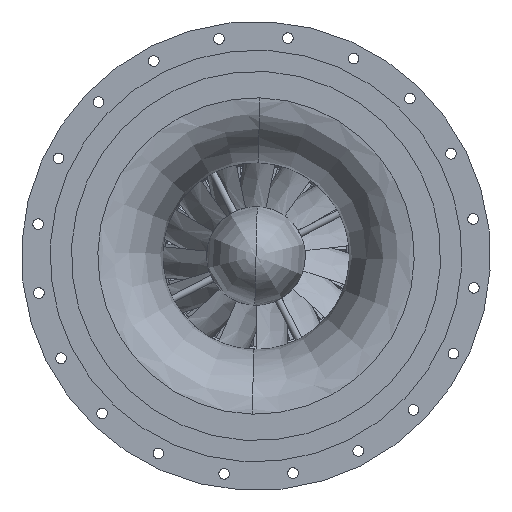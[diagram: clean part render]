
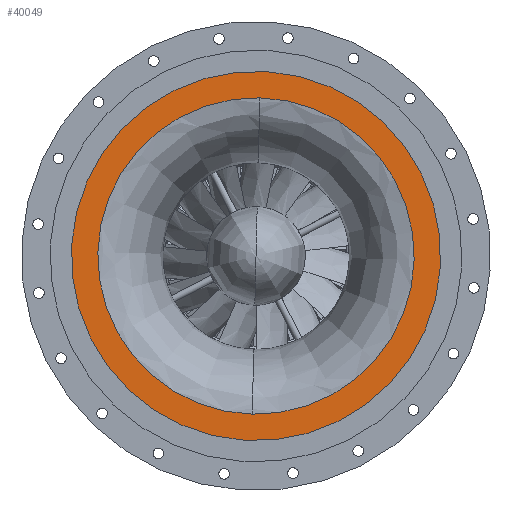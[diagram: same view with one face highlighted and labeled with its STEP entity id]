
A CAD part, front view. The second image highlights one B-rep face of the part: STEP entity #40049.
In plain terms, the highlighted planar face has unit normal (0, -1, 0).
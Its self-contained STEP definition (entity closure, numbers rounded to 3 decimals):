
#39971=CARTESIAN_POINT('Axis2P3D Location',(0.,-27.178,164.441)) ;
#39980=CARTESIAN_POINT('Axis2P3D Location',(0.,-27.178,0.)) ;
#39984=CARTESIAN_POINT('Vertex',(-78.837,-27.178,-144.311)) ;
#39986=CARTESIAN_POINT('Vertex',(78.837,-27.178,144.311)) ;
#39989=CARTESIAN_POINT('Axis2P3D Location',(0.,-27.178,0.)) ;
#40031=CARTESIAN_POINT('Axis2P3D Location',(0.,-27.178,0.)) ;
#40035=CARTESIAN_POINT('Vertex',(-63.931,-27.178,-117.026)) ;
#40037=CARTESIAN_POINT('Vertex',(63.931,-27.178,117.026)) ;
#40040=CARTESIAN_POINT('Axis2P3D Location',(0.,-27.178,0.)) ;
#39972=DIRECTION('Axis2P3D Direction',(0.,1.,0.)) ;
#39973=DIRECTION('Axis2P3D XDirection',(1.,-0.,0.)) ;
#39981=DIRECTION('Axis2P3D Direction',(0.,1.,0.)) ;
#39990=DIRECTION('Axis2P3D Direction',(0.,1.,0.)) ;
#40032=DIRECTION('Axis2P3D Direction',(0.,1.,0.)) ;
#40041=DIRECTION('Axis2P3D Direction',(0.,1.,0.)) ;
#39974=AXIS2_PLACEMENT_3D('Plane Axis2P3D',#39971,#39972,#39973) ;
#39982=AXIS2_PLACEMENT_3D('Circle Axis2P3D',#39980,#39981,$) ;
#39991=AXIS2_PLACEMENT_3D('Circle Axis2P3D',#39989,#39990,$) ;
#40033=AXIS2_PLACEMENT_3D('Circle Axis2P3D',#40031,#40032,$) ;
#40042=AXIS2_PLACEMENT_3D('Circle Axis2P3D',#40040,#40041,$) ;
#40028=ORIENTED_EDGE('',*,*,#39993,.F.) ;
#40029=ORIENTED_EDGE('',*,*,#39988,.F.) ;
#40046=ORIENTED_EDGE('',*,*,#40039,.T.) ;
#40047=ORIENTED_EDGE('',*,*,#40044,.T.) ;
#40048=FACE_BOUND('',#40045,.T.) ;
#40049=ADVANCED_FACE('Corps principal',(#40030,#40048),#39975,.F.) ;
#39983=CIRCLE('generated circle',#39982,164.441) ;
#39992=CIRCLE('generated circle',#39991,164.441) ;
#40034=CIRCLE('generated circle',#40033,133.35) ;
#40043=CIRCLE('generated circle',#40042,133.35) ;
#39988=EDGE_CURVE('',#39985,#39987,#39983,.T.) ;
#39993=EDGE_CURVE('',#39987,#39985,#39992,.T.) ;
#40039=EDGE_CURVE('',#40036,#40038,#40034,.T.) ;
#40044=EDGE_CURVE('',#40038,#40036,#40043,.T.) ;
#40027=EDGE_LOOP('',(#40028,#40029)) ;
#40045=EDGE_LOOP('',(#40046,#40047)) ;
#40030=FACE_OUTER_BOUND('',#40027,.T.) ;
#39975=PLANE('Plane',#39974) ;
#39985=VERTEX_POINT('',#39984) ;
#39987=VERTEX_POINT('',#39986) ;
#40036=VERTEX_POINT('',#40035) ;
#40038=VERTEX_POINT('',#40037) ;
